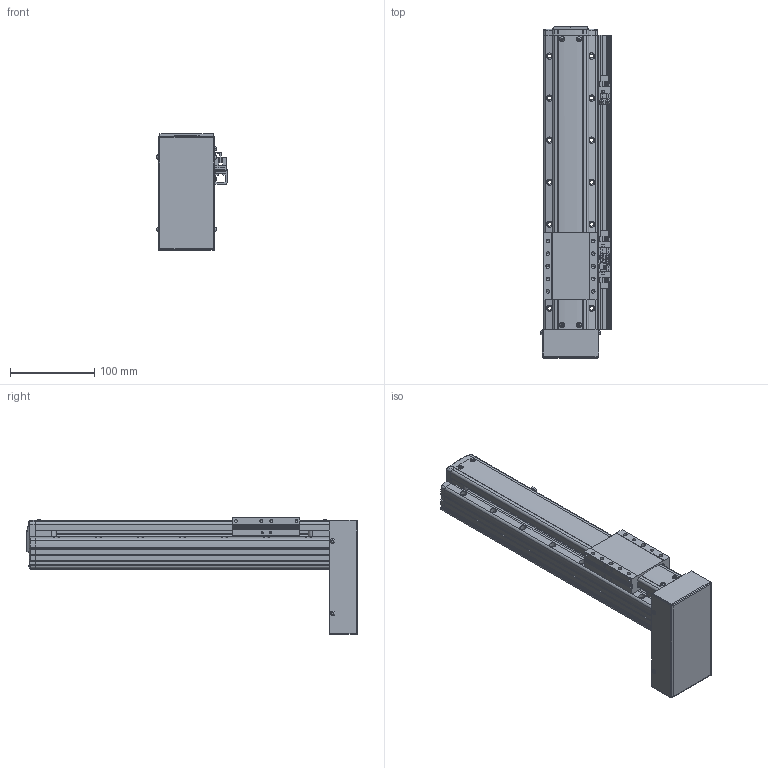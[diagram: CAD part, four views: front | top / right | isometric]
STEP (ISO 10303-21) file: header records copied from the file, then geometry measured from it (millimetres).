
FILE_DESCRIPTION(('STEP AP214'),'1');
FILE_NAME('Z:/Web/3D/PSA65/STP/PSA65-200 (3D)/PSA65ㅁㅁ-200PB+3SR.stp','2014-06-25T03:33:04',(' '),(' '),'Spatial InterOp 3D',' ',' ');
FILE_SCHEMA(('automotive_design'));
Length unit declared in the file: millimetre
Products named in the file (67): SLIDE; RRCV-PA060; 1; 2; 3; 4; 5; 6; 7; 8; 9; 10; 11; 12; 13; 14; 15; 16; 17; 18; 19; 20; 21; 22; 23; 24; 25; 26; 27; 28; 29; 30; 31; 스크루 : Round - M3.0 x 8.0; RN8 x 0.75; SHAFT-SAN65; BASE; 스크루 : Round - M3.0 x 6.0; BTCV-SAN65; M3.0 x 6.0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
Bounding box: 84.06 x 394.8 x 139 mm (x, y, z)
Volume: 1468600 mm3; surface area: 249087.3 mm2
Topology: 67 solids, 67 shells, 2204 faces, 5803 edges, 3738 vertices
Faces by surface type: plane 1387, cylinder 553, cone 179, sphere 50, bspline 19, torus 16
Entity records: 87342 total; most frequent: CARTESIAN_POINT 13441, DIRECTION 11666, ORIENTED_EDGE 11394, EDGE_CURVE 5697, LINE 4060, VECTOR 4060, AXIS2_PLACEMENT_3D 3803, VERTEX_POINT 3738
